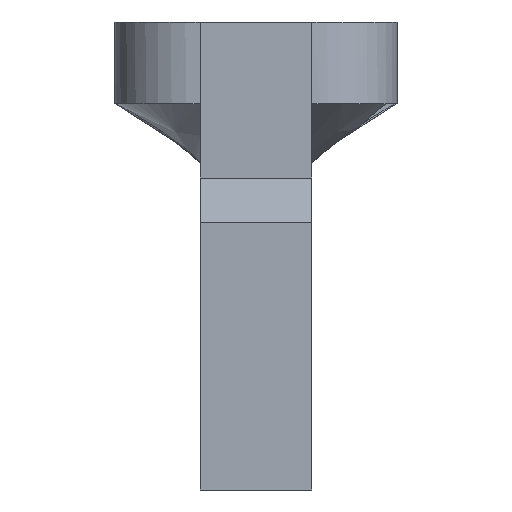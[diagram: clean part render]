
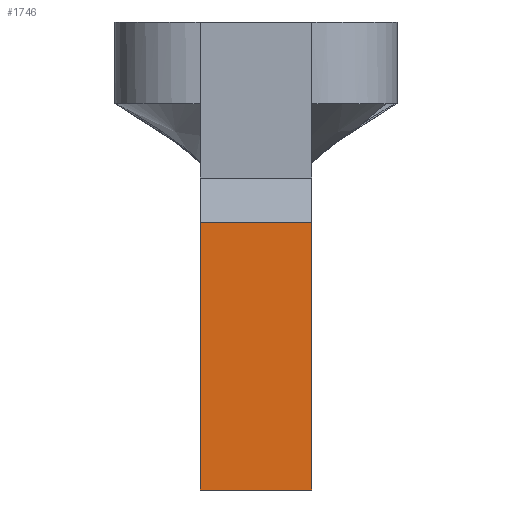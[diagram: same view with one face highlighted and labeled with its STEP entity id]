
A CAD part, left-side view. The second image highlights one B-rep face of the part: STEP entity #1746.
In plain terms, the highlighted planar face has unit normal (-1, 0, 0).
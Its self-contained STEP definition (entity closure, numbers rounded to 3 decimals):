
#420 = LINE ( 'NONE', #17371, #10268 ) ;
#916 = CARTESIAN_POINT ( 'NONE',  ( -179., -96.5, -159.5 ) ) ;
#1746 = ADVANCED_FACE ( 'NONE', ( #18345 ), #1919, .T. ) ;
#1919 = PLANE ( 'NONE',  #2840 ) ;
#2136 = VERTEX_POINT ( 'NONE', #916 ) ;
#2840 = AXIS2_PLACEMENT_3D ( 'NONE', #12332, #12257, #8613 ) ;
#3267 = EDGE_CURVE ( 'NONE', #2136, #10371, #14318, .T. ) ;
#4310 = CARTESIAN_POINT ( 'NONE',  ( -179., -81.5, -159.5 ) ) ;
#4677 = CARTESIAN_POINT ( 'NONE',  ( -179., -96.5, -123.5 ) ) ;
#4996 = CARTESIAN_POINT ( 'NONE',  ( -179., -96.5, -159.5 ) ) ;
#5046 = ORIENTED_EDGE ( 'NONE', *, *, #11090, .F. ) ;
#5166 = VECTOR ( 'NONE', #21862, 1000. ) ;
#5383 = CARTESIAN_POINT ( 'NONE',  ( -179., -81.5, -123.5 ) ) ;
#6019 = EDGE_CURVE ( 'NONE', #14681, #10371, #420, .T. ) ;
#6278 = CARTESIAN_POINT ( 'NONE',  ( -179., -81.5, -159.5 ) ) ;
#6706 = VECTOR ( 'NONE', #12865, 1000. ) ;
#8613 = DIRECTION ( 'NONE',  ( 0., 0., 1. ) ) ;
#8745 = ORIENTED_EDGE ( 'NONE', *, *, #3267, .T. ) ;
#8861 = LINE ( 'NONE', #4310, #6706 ) ;
#10268 = VECTOR ( 'NONE', #17225, 1000. ) ;
#10371 = VERTEX_POINT ( 'NONE', #4677 ) ;
#11090 = EDGE_CURVE ( 'NONE', #17602, #14681, #20642, .T. ) ;
#12257 = DIRECTION ( 'NONE',  ( -1., 0., 0. ) ) ;
#12332 = CARTESIAN_POINT ( 'NONE',  ( -179., -81.5, -159.5 ) ) ;
#12865 = DIRECTION ( 'NONE',  ( 0., -1., 0. ) ) ;
#14318 = LINE ( 'NONE', #4996, #19387 ) ;
#14681 = VERTEX_POINT ( 'NONE', #5383 ) ;
#16728 = ORIENTED_EDGE ( 'NONE', *, *, #6019, .F. ) ;
#16918 = DIRECTION ( 'NONE',  ( 0., 0., 1. ) ) ;
#17225 = DIRECTION ( 'NONE',  ( 0., -1., 0. ) ) ;
#17371 = CARTESIAN_POINT ( 'NONE',  ( -179., -69.901, -123.5 ) ) ;
#17602 = VERTEX_POINT ( 'NONE', #19352 ) ;
#17705 = EDGE_CURVE ( 'NONE', #17602, #2136, #8861, .T. ) ;
#17870 = ORIENTED_EDGE ( 'NONE', *, *, #17705, .T. ) ;
#18345 = FACE_OUTER_BOUND ( 'NONE', #19186, .T. ) ;
#19186 = EDGE_LOOP ( 'NONE', ( #16728, #5046, #17870, #8745 ) ) ;
#19352 = CARTESIAN_POINT ( 'NONE',  ( -179., -81.5, -159.5 ) ) ;
#19387 = VECTOR ( 'NONE', #16918, 1000. ) ;
#20642 = LINE ( 'NONE', #6278, #5166 ) ;
#21862 = DIRECTION ( 'NONE',  ( 0., 0., 1. ) ) ;
